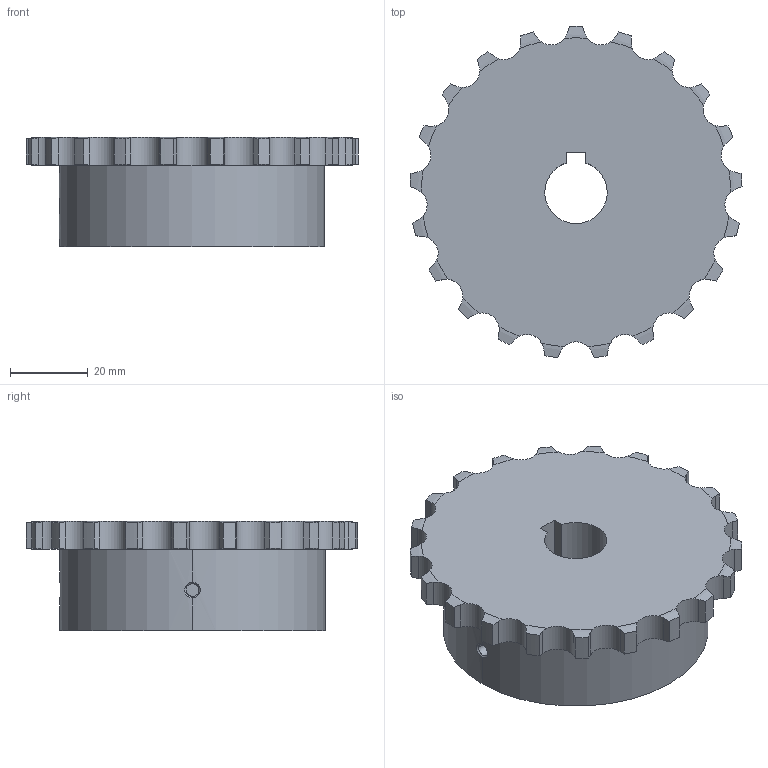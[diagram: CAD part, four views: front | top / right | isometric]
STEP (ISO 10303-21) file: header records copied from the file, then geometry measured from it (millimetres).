
FILE_DESCRIPTION((''),'2;1');
FILE_NAME('510-201-1621_PRT','2021-02-13T',('Brieden'),('Brieden'),'PRO/ENGINEER BY PARAMETRIC TECHNOLOGY CORPORATION, 2010160','PRO/ENGINEER BY PARAMETRIC TECHNOLOGY CORPORATION, 2010160','');
FILE_SCHEMA(('AUTOMOTIVE_DESIGN { 1 0 10303 214 1 1 1 1 }'));
Length unit declared in the file: millimetre
Products named in the file (1): 510-201-1621_PRT
Bounding box: 85.17 x 84.96 x 28 mm (x, y, z)
Volume: 105979.2 mm3; surface area: 18481.8 mm2
Topology: 1 solids, 1 shells, 147 faces, 423 edges, 280 vertices
Faces by surface type: cylinder 91, torus 42, plane 8, bspline 6
Entity records: 7083 total; most frequent: CARTESIAN_POINT 2126, ORIENTED_EDGE 846, DIRECTION 661, PRESENTATION_STYLE_ASSIGNMENT 424, STYLED_ITEM 424, CURVE_STYLE 423, EDGE_CURVE 423, VERTEX_POINT 280
